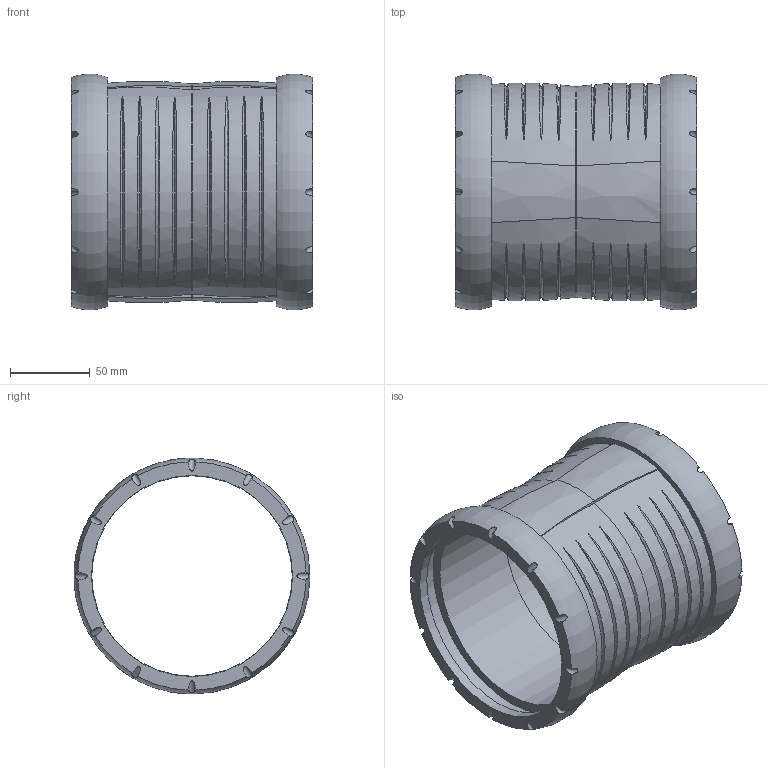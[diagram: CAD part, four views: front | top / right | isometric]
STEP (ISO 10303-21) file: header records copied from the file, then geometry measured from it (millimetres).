
FILE_DESCRIPTION(/* description */ (''),/* implementation_level */ '2;1');
FILE_NAME(/* name */ 'H:\Geberit-Teile\Export\Doppelsteckmuffe\stp\393617.stp',/* time_stamp */ '2017-02-14T08:57:37+01:00',/* author */ ('seihe2'),/* organization */ (''),/* preprocessor_version */ 'ST-DEVELOPER v15.2',/* originating_system */ 'Autodesk Inventor 2014',/* authorisation */ '');
FILE_SCHEMA (('AUTOMOTIVE_DESIGN { 1 0 10303 214 3 1 1 }'));
Length unit declared in the file: millimetre
Products named in the file (1): 393617
Bounding box: 151.6 x 148.33 x 148.36 mm (x, y, z)
Volume: 364616.9 mm3; surface area: 155502.7 mm2
Topology: 2 solids, 2 shells, 86 faces, 216 edges, 156 vertices
Faces by surface type: bspline 44, cylinder 30, plane 10, torus 2
Full cylindrical faces by diameter (mm): 126 x2, 126.4 x2, 138.1 x2
Entity records: 7125 total; most frequent: CARTESIAN_POINT 5295, ORIENTED_EDGE 404, DIRECTION 250, EDGE_CURVE 202, VERTEX_POINT 150, AXIS2_PLACEMENT_3D 125, B_SPLINE_CURVE_WITH_KNOTS 120, EDGE_LOOP 120
